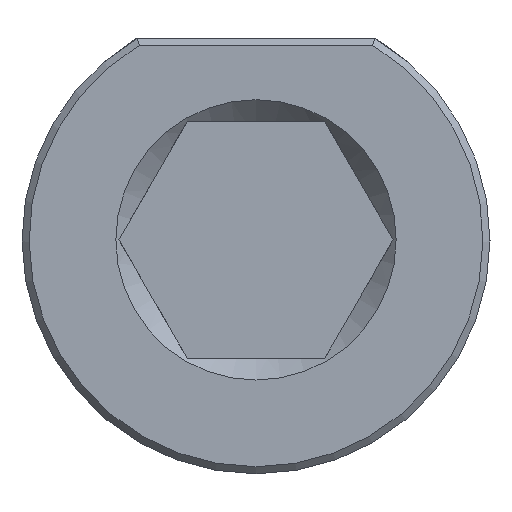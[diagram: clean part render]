
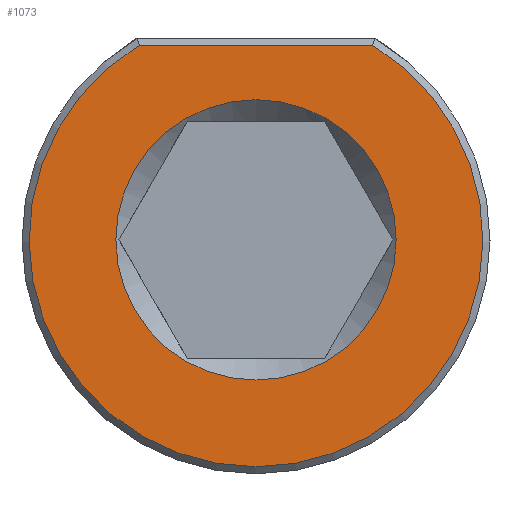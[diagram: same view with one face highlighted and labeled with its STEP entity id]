
A CAD part, front view. The second image highlights one B-rep face of the part: STEP entity #1073.
In plain terms, the highlighted planar face has unit normal (0, -1, 0).
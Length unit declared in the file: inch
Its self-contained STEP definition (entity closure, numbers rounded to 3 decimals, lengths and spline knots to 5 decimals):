
#54=FACE_BOUND('',#298,.T.);
#76=PLANE('',#1199);
#137=LINE('',#1920,#186);
#186=VECTOR('',#1422,0.3937);
#232=FACE_OUTER_BOUND('',#297,.T.);
#297=EDGE_LOOP('',(#826,#827));
#298=EDGE_LOOP('',(#828));
#370=CIRCLE('',#1197,0.4775);
#371=CIRCLE('',#1200,0.295);
#493=VERTEX_POINT('',#1908);
#494=VERTEX_POINT('',#1913);
#495=VERTEX_POINT('',#1923);
#622=EDGE_CURVE('',#493,#494,#370,.T.);
#624=EDGE_CURVE('',#494,#493,#137,.T.);
#626=EDGE_CURVE('',#495,#495,#371,.T.);
#826=ORIENTED_EDGE('',*,*,#622,.F.);
#827=ORIENTED_EDGE('',*,*,#624,.F.);
#828=ORIENTED_EDGE('',*,*,#626,.F.);
#1073=ADVANCED_FACE('',(#232,#54),#76,.F.);
#1197=AXIS2_PLACEMENT_3D('',#1914,#1418,#1419);
#1199=AXIS2_PLACEMENT_3D('',#1922,#1424,#1425);
#1200=AXIS2_PLACEMENT_3D('',#1924,#1426,#1427);
#1418=DIRECTION('center_axis',(0.,1.,0.));
#1419=DIRECTION('ref_axis',(-0.507,0.,-0.862));
#1422=DIRECTION('',(1.,0.,0.));
#1424=DIRECTION('center_axis',(0.,1.,0.));
#1425=DIRECTION('ref_axis',(1.,0.,0.));
#1426=DIRECTION('center_axis',(0.,-1.,0.));
#1427=DIRECTION('ref_axis',(1.,0.,0.));
#1908=CARTESIAN_POINT('',(0.24559,0.,0.4095));
#1913=CARTESIAN_POINT('',(-0.24559,0.,0.4095));
#1914=CARTESIAN_POINT('Origin',(0.,0.,0.));
#1920=CARTESIAN_POINT('',(-0.12486,0.,0.4095));
#1922=CARTESIAN_POINT('Origin',(0.,0.,-0.034));
#1923=CARTESIAN_POINT('',(-0.295,0.,0.));
#1924=CARTESIAN_POINT('Origin',(0.,0.,0.));
